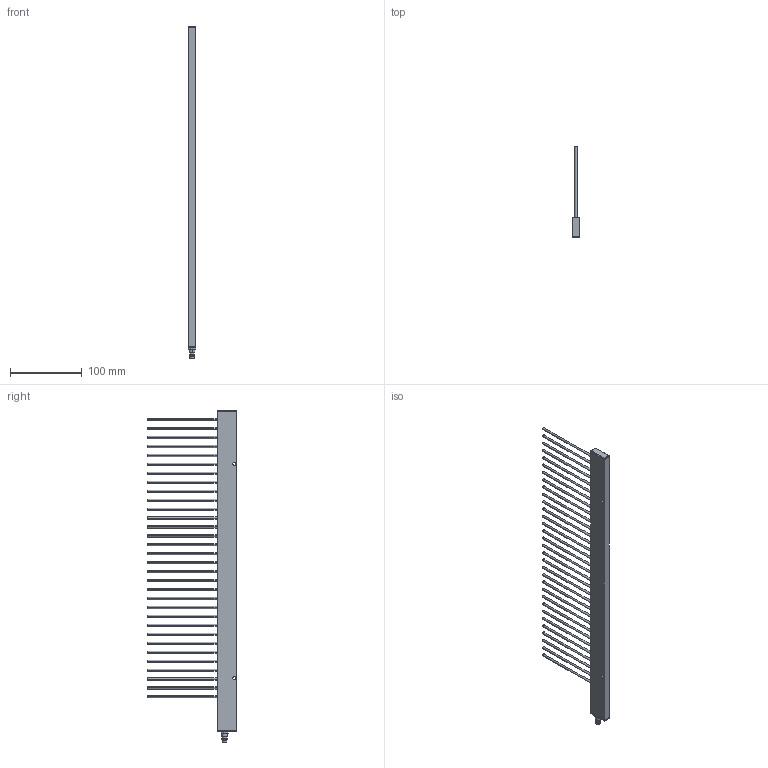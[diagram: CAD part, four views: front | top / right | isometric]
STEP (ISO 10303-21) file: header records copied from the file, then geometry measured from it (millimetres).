
FILE_DESCRIPTION (( 'STEP AP203' ), '1' );
FILE_NAME ('CSL505-RxTx12.5-388-M8.STEP', '2016-02-11T11:18:18', ( '' ), ( '' ), 'SwSTEP 2.0', 'SolidWorks 2015', '' );
FILE_SCHEMA (( 'CONFIG_CONTROL_DESIGN' ));
Length unit declared in the file: millimetre
Products named in the file (2): CSL505-RxTx12.5-388-M8
Bounding box: 10 x 125.2 x 464 mm (x, y, z)
Volume: 141962.1 mm3; surface area: 64955.4 mm2
Topology: 1 solids, 1 shells, 242 faces, 580 edges, 374 vertices
Faces by surface type: plane 126, cylinder 104, cone 12
Entity records: 7201 total; most frequent: DIRECTION 1286, CARTESIAN_POINT 1198, ORIENTED_EDGE 1160, EDGE_CURVE 580, AXIS2_PLACEMENT_3D 462, VERTEX_POINT 374, VECTOR 362, LINE 362
